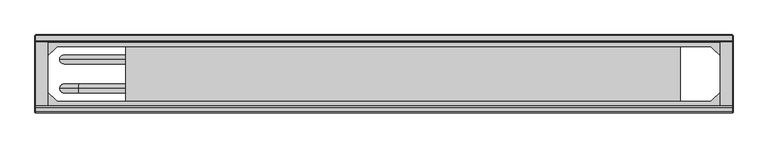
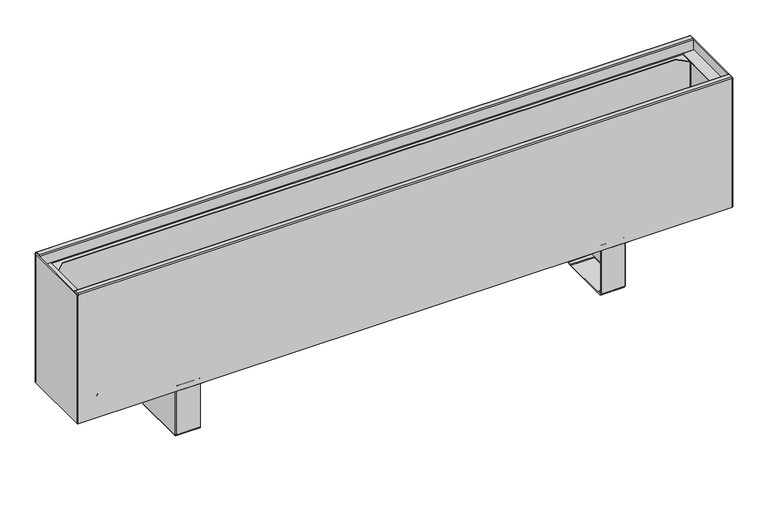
"""IFC4 building model written with IfcOpenShell, lengths in millimetres: proxy geometry, TECHNO_Конвектор напольный_Vita KPZ 135 : KPZ 135-250-1."""

from ifc_helpers import new_model, si_unit, point, frame, origin, place, context, project, spatial, polyline, circle_curve, ellipse_curve, trimmed, outline, extrude, source, transform, mapped, element, save
from ifc_brep_helpers import plane_surface, cylinder_surface, revolved_surface, advanced_brep


def mechanical_equipment_47e8f98e(model_context):
    return source(origin(), model_context, "Body", "SolidModel", [
        advanced_brep(
        [(409.7, -116.8, 1.5), (409.7, -114.5, 3.8), (409.7, -114.5, 4.9), (409.7, -116.0, 4.9), (409.7, -116.0, 3.8), (409.7, -116.8, 3.0), (409.7, -124.5, 3.0), (409.7, -124.5, 1.5), (409.7, -117.6, 1.5), (409.7, -114.5, 97.7), (409.7, -113.7, 98.5), (409.7, -101.0, 98.5), (409.7, -101.0, 100.0), (409.7, -113.7, 100.0), (409.7, -116.0, 97.7), (409.7, -116.0, 95.5), (409.7, -114.5, 95.5), (409.7, -220.5, 3.8), (409.7, -218.2, 1.5), (409.7, -217.4, 1.5), (409.7, -210.5, 1.5), (409.7, -210.5, 3.0), (409.7, -218.2, 3.0), (409.7, -219.0, 3.8), (409.7, -219.0, 4.9), (409.7, -220.5, 4.9), (409.7, -219.0, 97.7), (409.7, -221.3, 100.0), (409.7, -234.0, 100.0), (409.7, -234.0, 98.5), (409.7, -221.3, 98.5), (409.7, -220.5, 97.7), (409.7, -220.5, 95.5), (409.7, -219.0, 95.5), (367.0, -220.5, 97.7), (367.0, -221.3, 98.5), (367.0, -234.0, 98.5), (367.0, -234.0, 100.0), (367.0, -221.3, 100.0), (367.0, -219.0, 97.7), (367.0, -219.0, 3.8), (367.0, -218.2, 3.0), (367.0, -210.5, 3.0), (367.0, -210.5, 1.5), (367.0, -124.5, 1.5), (367.0, -124.5, 3.0), (367.0, -116.8, 3.0), (367.0, -116.0, 3.8), (367.0, -116.0, 97.7), (367.0, -113.7, 100.0), (367.0, -101.0, 100.0), (367.0, -101.0, 98.5), (367.0, -113.7, 98.5), (367.0, -114.5, 97.7), (367.0, -114.5, 3.8), (367.0, -116.8, 1.5), (367.0, -117.6, 1.5), (367.0, -117.6, 0.0), (367.0, -217.4, 0.0), (367.0, -217.4, 1.5), (367.0, -218.2, 1.5), (367.0, -220.5, 3.8), (410.5, -116.8, 95.5), (410.5, -218.2, 95.5), (412.0, -218.2, 95.5), (412.0, -116.8, 95.5), (412.0, -116.8, 4.9), (412.0, -117.6, 4.9), (410.5, -117.6, 4.9), (410.5, -116.8, 4.9), (410.5, -218.2, 4.9), (410.5, -217.4, 4.9), (412.0, -217.4, 4.9), (412.0, -218.2, 4.9), (410.5, -117.6, 2.3), (410.5, -217.4, 2.3), (412.0, -217.4, 2.3), (412.0, -117.6, 2.3), (409.7, -117.6, 0.0), (409.7, -217.4, 0.0)],
        [
            (0, 1, circle_curve(frame((409.7, -116.8, 3.8), z_axis=(1.0, 0.0, 0.0), x_axis=(0.0, -1.0, 0.0)), 2.3)),
            (1, 2),
            (2, 3),
            (3, 4),
            (4, 5, circle_curve(frame((409.7, -116.8, 3.8), z_axis=(-1.0, 0.0, 0.0), x_axis=(0.0, -1.0, 0.0)), 0.8)),
            (5, 6),
            (6, 7),
            (7, 8),
            (8, 0),
            (9, 10, circle_curve(frame((409.7, -113.7, 97.7), z_axis=(-1.0, 0.0, 0.0), x_axis=(0.0, -1.0, 0.0)), 0.8)),
            (10, 11),
            (11, 12),
            (12, 13),
            (13, 14, circle_curve(frame((409.7, -113.7, 97.7), z_axis=(1.0, 0.0, 0.0), x_axis=(0.0, -1.0, 0.0)), 2.3)),
            (14, 15),
            (15, 16),
            (16, 9),
            (17, 18, circle_curve(frame((409.7, -218.2, 3.8), z_axis=(1.0, 0.0, 0.0), x_axis=(0.0, -1.0, 0.0)), 2.3)),
            (18, 19),
            (19, 20),
            (20, 21),
            (21, 22),
            (22, 23, circle_curve(frame((409.7, -218.2, 3.8), z_axis=(-1.0, 0.0, 0.0), x_axis=(0.0, -1.0, 0.0)), 0.8)),
            (23, 24),
            (24, 25),
            (25, 17),
            (26, 27, circle_curve(frame((409.7, -221.3, 97.7), z_axis=(1.0, 0.0, 0.0), x_axis=(0.0, -1.0, 0.0)), 2.3)),
            (27, 28),
            (28, 29),
            (29, 30),
            (30, 31, circle_curve(frame((409.7, -221.3, 97.7), z_axis=(-1.0, 0.0, 0.0), x_axis=(0.0, -1.0, 0.0)), 0.8)),
            (31, 32),
            (32, 33),
            (33, 26),
            (34, 35, circle_curve(frame((367.0, -221.3, 97.7), z_axis=(1.0, 0.0, 0.0), x_axis=(0.0, -1.0, 0.0)), 0.8)),
            (35, 36),
            (36, 37),
            (37, 38),
            (38, 39, circle_curve(frame((367.0, -221.3, 97.7), z_axis=(-1.0, 0.0, 0.0), x_axis=(0.0, -1.0, 0.0)), 2.3)),
            (39, 40),
            (40, 41, circle_curve(frame((367.0, -218.2, 3.8), z_axis=(1.0, 0.0, 0.0), x_axis=(0.0, -1.0, 0.0)), 0.8)),
            (41, 42),
            (42, 43),
            (43, 44),
            (44, 45),
            (45, 46),
            (46, 47, circle_curve(frame((367.0, -116.8, 3.8), z_axis=(1.0, 0.0, 0.0), x_axis=(0.0, -1.0, 0.0)), 0.8)),
            (47, 48),
            (48, 49, circle_curve(frame((367.0, -113.7, 97.7), z_axis=(-1.0, 0.0, 0.0), x_axis=(0.0, -1.0, 0.0)), 2.3)),
            (49, 50),
            (50, 51),
            (51, 52),
            (52, 53, circle_curve(frame((367.0, -113.7, 97.7), z_axis=(1.0, 0.0, 0.0), x_axis=(0.0, -1.0, 0.0)), 0.8)),
            (53, 54),
            (54, 55, circle_curve(frame((367.0, -116.8, 3.8), z_axis=(-1.0, 0.0, 0.0), x_axis=(0.0, -1.0, 0.0)), 2.3)),
            (55, 56),
            (56, 57),
            (57, 58),
            (58, 59),
            (59, 60),
            (60, 61, circle_curve(frame((367.0, -218.2, 3.8), z_axis=(-1.0, 0.0, 0.0), x_axis=(0.0, -1.0, 0.0)), 2.3)),
            (61, 34),
            (30, 35),
            (34, 31),
            (29, 36),
            (28, 37),
            (27, 38),
            (26, 39),
            (33, 24),
            (23, 40),
            (22, 41),
            (5, 46),
            (45, 6),
            (4, 47),
            (3, 15),
            (14, 48),
            (13, 49),
            (12, 50),
            (11, 51),
            (10, 52),
            (9, 53),
            (16, 2),
            (1, 54),
            (0, 55),
            (8, 56),
            (17, 61),
            (60, 18),
            (25, 32),
            (21, 42),
            (20, 43),
            (59, 19),
            (44, 7),
            (15, 62, circle_curve(frame((409.7, -116.8, 95.5), z_axis=(0.0, 0.0, -1.0), x_axis=(-1.0, 0.0, 0.0)), 0.8)),
            (62, 63),
            (63, 33, circle_curve(frame((409.7, -218.2, 95.5), z_axis=(0.0, 0.0, -1.0), x_axis=(-1.0, 0.0, 0.0)), 0.8)),
            (32, 64, circle_curve(frame((409.7, -218.2, 95.5), z_axis=(0.0, 0.0, 1.0), x_axis=(-1.0, 0.0, 0.0)), 2.3)),
            (64, 65),
            (65, 16, circle_curve(frame((409.7, -116.8, 95.5), z_axis=(0.0, 0.0, 1.0), x_axis=(-1.0, 0.0, 0.0)), 2.3)),
            (2, 66, circle_curve(frame((409.7, -116.8, 4.9), z_axis=(0.0, 0.0, -1.0), x_axis=(-1.0, 0.0, 0.0)), 2.3)),
            (66, 67),
            (67, 68),
            (68, 69),
            (69, 3, circle_curve(frame((409.7, -116.8, 4.9), z_axis=(0.0, 0.0, 1.0), x_axis=(-1.0, 0.0, 0.0)), 0.8)),
            (24, 70, circle_curve(frame((409.7, -218.2, 4.9), z_axis=(0.0, 0.0, 1.0), x_axis=(-1.0, 0.0, 0.0)), 0.8)),
            (70, 71),
            (71, 72),
            (72, 73),
            (73, 25, circle_curve(frame((409.7, -218.2, 4.9), z_axis=(0.0, 0.0, -1.0), x_axis=(-1.0, 0.0, 0.0)), 2.3)),
            (69, 62),
            (68, 74),
            (74, 75),
            (75, 71),
            (70, 63),
            (64, 73),
            (72, 76),
            (76, 77),
            (77, 67),
            (66, 65),
            (8, 74, circle_curve(frame((409.7, -117.6, 2.3), z_axis=(0.0, -1.0, 0.0), x_axis=(-1.0, 0.0, 0.0)), 0.8)),
            (77, 78, circle_curve(frame((409.7, -117.6, 2.3), z_axis=(0.0, 1.0, 0.0), x_axis=(-1.0, 0.0, 0.0)), 2.3)),
            (78, 57),
            (58, 79),
            (79, 76, circle_curve(frame((409.7, -217.4, 2.3), z_axis=(0.0, -1.0, 0.0), x_axis=(-1.0, 0.0, 0.0)), 2.3)),
            (75, 19, circle_curve(frame((409.7, -217.4, 2.3), z_axis=(0.0, 1.0, 0.0), x_axis=(-1.0, 0.0, 0.0)), 0.8)),
            (20, 7),
            (79, 78),
        ],
        [
            plane_surface(frame((409.7, -222.1, 97.7), z_axis=(1.0, 0.0, 0.0), x_axis=(0.0, 0.0, 1.0))),
            plane_surface(frame((367.0, -222.1, 97.7), z_axis=(-1.0, 0.0, 0.0), x_axis=(0.0, 0.0, -1.0))),
            revolved_surface(polyline([(409.7, -222.10000000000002, 97.7), (367.0, -222.10000000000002, 97.7)]), (409.7, -221.3, 97.7), (1.0, 0.0, 0.0)),
            plane_surface(frame((367.0, -221.3, 98.5), z_axis=(0.0, 0.0, -1.0), x_axis=(1.0, 0.0, 0.0))),
            plane_surface(frame((367.0, -234.0, 98.5), z_axis=(0.0, -1.0, 0.0), x_axis=(1.0, 0.0, 0.0))),
            plane_surface(frame((367.0, -234.0, 100.0), z_axis=(0.0, 0.0, 1.0), x_axis=(1.0, 0.0, 0.0))),
            cylinder_surface(frame((409.7, -221.3, 97.7), z_axis=(-1.0, 0.0, 0.0), x_axis=(0.0, -1.0, 0.0)), 2.3),
            plane_surface(frame((367.0, -219.0, 97.7), z_axis=(0.0, 1.0, 0.0), x_axis=(1.0, 0.0, 0.0))),
            revolved_surface(polyline([(409.7, -219.0, 3.8), (367.0, -219.0, 3.8)]), (409.7, -218.2, 3.8), (1.0, 0.0, 0.0)),
            plane_surface(frame((367.0, -124.5, 3.0), z_axis=(0.0, 0.0, 1.0), x_axis=(1.0, 0.0, 0.0))),
            revolved_surface(polyline([(409.7, -117.6, 3.8), (367.0, -117.6, 3.8)]), (412.0, -116.8, 3.8), (1.0, 0.0, 0.0)),
            plane_surface(frame((367.0, -116.0, 3.8), z_axis=(0.0, -1.0, 0.0), x_axis=(1.0, 0.0, 0.0))),
            cylinder_surface(frame((412.0, -113.7, 97.7), z_axis=(-1.0, 0.0, 0.0), x_axis=(0.0, -1.0, 0.0)), 2.3),
            plane_surface(frame((367.0, -113.7, 100.0), z_axis=(0.0, 0.0, 1.0), x_axis=(1.0, 0.0, 0.0))),
            plane_surface(frame((367.0, -101.0, 100.0), z_axis=(0.0, 1.0, 0.0), x_axis=(1.0, 0.0, 0.0))),
            plane_surface(frame((367.0, -101.0, 98.5), z_axis=(0.0, 0.0, -1.0), x_axis=(1.0, 0.0, 0.0))),
            revolved_surface(polyline([(409.7, -114.5, 97.7), (367.0, -114.5, 97.7)]), (412.0, -113.7, 97.7), (1.0, 0.0, 0.0)),
            plane_surface(frame((367.0, -114.5, 97.7), z_axis=(0.0, 1.0, 0.0), x_axis=(1.0, 0.0, 0.0))),
            cylinder_surface(frame((412.0, -116.8, 3.8), z_axis=(-1.0, 0.0, 0.0), x_axis=(0.0, -1.0, 0.0)), 2.3),
            plane_surface(frame((367.0, -116.8, 1.5), z_axis=(0.0, 0.0, -1.0), x_axis=(1.0, 0.0, 0.0))),
            cylinder_surface(frame((409.7, -218.2, 3.8), z_axis=(-1.0, 0.0, 0.0), x_axis=(0.0, -1.0, 0.0)), 2.3),
            plane_surface(frame((367.0, -220.5, 3.8), z_axis=(0.0, -1.0, 0.0), x_axis=(1.0, 0.0, 0.0))),
            plane_surface(frame((367.0, -218.2, 3.0), z_axis=(0.0, 0.0, 1.0), x_axis=(1.0, 0.0, 0.0))),
            plane_surface(frame((367.0, -210.5, 3.0), z_axis=(0.0, 1.0, 0.0), x_axis=(1.0, 0.0, 0.0))),
            plane_surface(frame((367.0, -210.5, 1.5), z_axis=(0.0, 0.0, -1.0), x_axis=(1.0, 0.0, 0.0))),
            plane_surface(frame((367.0, -124.5, 1.5), z_axis=(0.0, -1.0, 0.0), x_axis=(1.0, 0.0, 0.0))),
            plane_surface(frame((409.7, -116.0, 95.5), z_axis=(0.0, 0.0, 1.0), x_axis=(0.0, -1.0, 0.0))),
            plane_surface(frame((409.7, -116.0, 4.9), z_axis=(0.0, 0.0, -1.0), x_axis=(0.0, 1.0, 0.0))),
            revolved_surface(polyline([(408.9, -116.8, 4.9), (408.9, -116.8, 95.5)]), (409.7, -116.8, 4.9), (0.0, 0.0, -1.0)),
            plane_surface(frame((410.5, -116.8, 95.5), z_axis=(-1.0, 0.0, 0.0), x_axis=(0.0, 0.0, -1.0))),
            plane_surface(frame((412.0, -117.6, 95.5), z_axis=(1.0, 0.0, 0.0), x_axis=(0.0, 0.0, -1.0))),
            cylinder_surface(frame((409.7, -116.8, 4.9), z_axis=(0.0, 0.0, 1.0), x_axis=(-1.0, 0.0, 0.0)), 2.3),
            cylinder_surface(frame((409.7, -218.2, 0.0), z_axis=(0.0, 0.0, 1.0), x_axis=(-1.0, 0.0, 0.0)), 2.3),
            revolved_surface(polyline([(408.9, -218.2, 4.9), (408.9, -218.2, 95.5)]), (409.7, -218.2, 0.0), (0.0, 0.0, -1.0)),
            plane_surface(frame((367.0, -117.6, 1.5), z_axis=(0.0, 1.0, 0.0), x_axis=(0.0, 0.0, 1.0))),
            plane_surface(frame((367.0, -217.4, 1.5), z_axis=(0.0, -1.0, 0.0), x_axis=(0.0, 0.0, -1.0))),
            plane_surface(frame((367.0, -117.6, 1.5), z_axis=(0.0, 0.0, 1.0), x_axis=(0.0, -1.0, 0.0))),
            revolved_surface(polyline([(408.9, -217.4, 2.3), (408.9, -117.6, 2.3)]), (409.7, -217.4, 2.3), (0.0, -1.0, 0.0)),
            cylinder_surface(frame((409.7, -217.4, 2.3), z_axis=(0.0, 1.0, 0.0), x_axis=(-1.0, 0.0, 0.0)), 2.3),
            plane_surface(frame((409.7, -117.6, 0.0), z_axis=(0.0, 0.0, -1.0), x_axis=(0.0, -1.0, 0.0))),
        ],
        [
            (0, [[1, 2, 3, 4, 5, 6, 7, 8, 9]]),
            (0, [[10, 11, 12, 13, 14, 15, 16, 17]]),
            (0, [[18, 19, 20, 21, 22, 23, 24, 25, 26]]),
            (0, [[27, 28, 29, 30, 31, 32, 33, 34]]),
            (1, [[35, 36, 37, 38, 39, 40, 41, 42, 43, 44, 45, 46, 47, 48, 49, 50, 51, 52, 53, 54, 55, 56, 57, 58, 59, 60, 61, 62]]),
            (2, [[-31, 63, -35, 64]]),
            (3, [[-30, 65, -36, -63]]),
            (4, [[-29, 66, -37, -65]]),
            (5, [[-28, 67, -38, -66]]),
            (6, [[-27, 68, -39, -67]]),
            (7, [[-40, -68, -34, 69, -24, 70]]),
            (8, [[-23, 71, -41, -70]]),
            (9, [[-6, 72, -46, 73]]),
            (10, [[-5, 74, -47, -72]]),
            (11, [[-48, -74, -4, 75, -15, 76]]),
            (12, [[-14, 77, -49, -76]]),
            (13, [[-13, 78, -50, -77]]),
            (14, [[-12, 79, -51, -78]]),
            (15, [[-11, 80, -52, -79]]),
            (16, [[-10, 81, -53, -80]]),
            (17, [[-54, -81, -17, 82, -2, 83]]),
            (18, [[-1, 84, -55, -83]]),
            (19, [[-84, -9, 85, -56]]),
            (20, [[-18, 86, -61, 87]]),
            (21, [[-62, -86, -26, 88, -32, -64]]),
            (22, [[-22, 89, -42, -71]]),
            (23, [[-21, 90, -43, -89]]),
            (24, [[-87, -60, 91, -19]]),
            (25, [[-7, -73, -45, 92]]),
            (26, [[93, 94, 95, -33, 96, 97, 98, -16]]),
            (27, [[99, 100, 101, 102, 103, -3]]),
            (27, [[104, 105, 106, 107, 108, -25]]),
            (28, [[-93, -75, -103, 109]]),
            (29, [[-94, -109, -102, 110, 111, 112, -105, 113]]),
            (30, [[-97, 114, -107, 115, 116, 117, -100, 118]]),
            (31, [[-98, -118, -99, -82]]),
            (32, [[-96, -88, -108, -114]]),
            (33, [[-95, -113, -104, -69]]),
            (34, [[-57, -85, 119, -110, -101, -117, 120, 121]]),
            (35, [[122, 123, -115, -106, -112, 124, -91, -59]]),
            (36, [[125, -92, -44, -90]]),
            (37, [[-119, -8, -125, -20, -124, -111]]),
            (38, [[-120, -116, -123, 126]]),
            (39, [[-121, -126, -122, -58]]),
        ],
    ),
        advanced_brep(
        [(-409.7, -218.2, 1.5), (-409.7, -220.5, 3.8), (-409.7, -220.5, 4.9), (-409.7, -219.0, 4.9), (-409.7, -219.0, 3.8), (-409.7, -218.2, 3.0), (-409.7, -210.5, 3.0), (-409.7, -210.5, 1.5), (-409.7, -217.4, 1.5), (-409.7, -220.5, 97.7), (-409.7, -221.3, 98.5), (-409.7, -234.0, 98.5), (-409.7, -234.0, 100.0), (-409.7, -221.3, 100.0), (-409.7, -219.0, 97.7), (-409.7, -219.0, 95.5), (-409.7, -220.5, 95.5), (-409.7, -114.5, 3.8), (-409.7, -116.8, 1.5), (-409.7, -117.6, 1.5), (-409.7, -124.5, 1.5), (-409.7, -124.5, 3.0), (-409.7, -116.8, 3.0), (-409.7, -116.0, 3.8), (-409.7, -116.0, 4.9), (-409.7, -114.5, 4.9), (-409.7, -116.0, 97.7), (-409.7, -113.7, 100.0), (-409.7, -101.0, 100.0), (-409.7, -101.0, 98.5), (-409.7, -113.7, 98.5), (-409.7, -114.5, 97.7), (-409.7, -114.5, 95.5), (-409.7, -116.0, 95.5), (-367.0, -114.5, 97.7), (-367.0, -113.7, 98.5), (-367.0, -101.0, 98.5), (-367.0, -101.0, 100.0), (-367.0, -113.7, 100.0), (-367.0, -116.0, 97.7), (-367.0, -116.0, 3.8), (-367.0, -116.8, 3.0), (-367.0, -124.5, 3.0), (-367.0, -124.5, 1.5), (-367.0, -210.5, 1.5), (-367.0, -210.5, 3.0), (-367.0, -218.2, 3.0), (-367.0, -219.0, 3.8), (-367.0, -219.0, 97.7), (-367.0, -221.3, 100.0), (-367.0, -234.0, 100.0), (-367.0, -234.0, 98.5), (-367.0, -221.3, 98.5), (-367.0, -220.5, 97.7), (-367.0, -220.5, 3.8), (-367.0, -218.2, 1.5), (-367.0, -217.4, 1.5), (-367.0, -217.4, 0.0), (-367.0, -117.6, 0.0), (-367.0, -117.6, 1.5), (-367.0, -116.8, 1.5), (-367.0, -114.5, 3.8), (-410.5, -218.2, 95.5), (-410.5, -116.8, 95.5), (-412.0, -116.8, 95.5), (-412.0, -218.2, 95.5), (-412.0, -218.2, 4.9), (-412.0, -217.4, 4.9), (-410.5, -217.4, 4.9), (-410.5, -218.2, 4.9), (-410.5, -116.8, 4.9), (-410.5, -117.6, 4.9), (-412.0, -117.6, 4.9), (-412.0, -116.8, 4.9), (-410.5, -217.4, 2.3), (-410.5, -117.6, 2.3), (-412.0, -117.6, 2.3), (-412.0, -217.4, 2.3), (-409.7, -217.4, 0.0), (-409.7, -117.6, 0.0)],
        [
            (0, 1, circle_curve(frame((-409.7, -218.2, 3.8), z_axis=(-1.0, 0.0, 0.0), x_axis=(0.0, 1.0, 0.0)), 2.3)),
            (1, 2),
            (2, 3),
            (3, 4),
            (4, 5, circle_curve(frame((-409.7, -218.2, 3.8), z_axis=(1.0, 0.0, 0.0), x_axis=(0.0, 1.0, 0.0)), 0.8)),
            (5, 6),
            (6, 7),
            (7, 8),
            (8, 0),
            (9, 10, circle_curve(frame((-409.7, -221.3, 97.7), z_axis=(1.0, 0.0, 0.0), x_axis=(0.0, 1.0, 0.0)), 0.8)),
            (10, 11),
            (11, 12),
            (12, 13),
            (13, 14, circle_curve(frame((-409.7, -221.3, 97.7), z_axis=(-1.0, 0.0, 0.0), x_axis=(0.0, 1.0, 0.0)), 2.3)),
            (14, 15),
            (15, 16),
            (16, 9),
            (17, 18, circle_curve(frame((-409.7, -116.8, 3.8), z_axis=(-1.0, 0.0, 0.0), x_axis=(0.0, 1.0, 0.0)), 2.3)),
            (18, 19),
            (19, 20),
            (20, 21),
            (21, 22),
            (22, 23, circle_curve(frame((-409.7, -116.8, 3.8), z_axis=(1.0, 0.0, 0.0), x_axis=(0.0, 1.0, 0.0)), 0.8)),
            (23, 24),
            (24, 25),
            (25, 17),
            (26, 27, circle_curve(frame((-409.7, -113.7, 97.7), z_axis=(-1.0, 0.0, 0.0), x_axis=(0.0, 1.0, 0.0)), 2.3)),
            (27, 28),
            (28, 29),
            (29, 30),
            (30, 31, circle_curve(frame((-409.7, -113.7, 97.7), z_axis=(1.0, 0.0, 0.0), x_axis=(0.0, 1.0, 0.0)), 0.8)),
            (31, 32),
            (32, 33),
            (33, 26),
            (34, 35, circle_curve(frame((-367.0, -113.7, 97.7), z_axis=(-1.0, 0.0, 0.0), x_axis=(0.0, 1.0, 0.0)), 0.8)),
            (35, 36),
            (36, 37),
            (37, 38),
            (38, 39, circle_curve(frame((-367.0, -113.7, 97.7), z_axis=(1.0, 0.0, 0.0), x_axis=(0.0, 1.0, 0.0)), 2.3)),
            (39, 40),
            (40, 41, circle_curve(frame((-367.0, -116.8, 3.8), z_axis=(-1.0, 0.0, 0.0), x_axis=(0.0, 1.0, 0.0)), 0.8)),
            (41, 42),
            (42, 43),
            (43, 44),
            (44, 45),
            (45, 46),
            (46, 47, circle_curve(frame((-367.0, -218.2, 3.8), z_axis=(-1.0, 0.0, 0.0), x_axis=(0.0, 1.0, 0.0)), 0.8)),
            (47, 48),
            (48, 49, circle_curve(frame((-367.0, -221.3, 97.7), z_axis=(1.0, 0.0, 0.0), x_axis=(0.0, 1.0, 0.0)), 2.3)),
            (49, 50),
            (50, 51),
            (51, 52),
            (52, 53, circle_curve(frame((-367.0, -221.3, 97.7), z_axis=(-1.0, 0.0, 0.0), x_axis=(0.0, 1.0, 0.0)), 0.8)),
            (53, 54),
            (54, 55, circle_curve(frame((-367.0, -218.2, 3.8), z_axis=(1.0, 0.0, 0.0), x_axis=(0.0, 1.0, 0.0)), 2.3)),
            (55, 56),
            (56, 57),
            (57, 58),
            (58, 59),
            (59, 60),
            (60, 61, circle_curve(frame((-367.0, -116.8, 3.8), z_axis=(1.0, 0.0, 0.0), x_axis=(0.0, 1.0, 0.0)), 2.3)),
            (61, 34),
            (30, 35),
            (34, 31),
            (29, 36),
            (28, 37),
            (27, 38),
            (26, 39),
            (33, 24),
            (23, 40),
            (22, 41),
            (5, 46),
            (45, 6),
            (4, 47),
            (3, 15),
            (14, 48),
            (13, 49),
            (12, 50),
            (11, 51),
            (10, 52),
            (9, 53),
            (16, 2),
            (1, 54),
            (0, 55),
            (8, 56),
            (17, 61),
            (60, 18),
            (25, 32),
            (21, 42),
            (20, 43),
            (59, 19),
            (44, 7),
            (15, 62, circle_curve(frame((-409.7, -218.2, 95.5), z_axis=(0.0, 0.0, -1.0), x_axis=(1.0, 0.0, 0.0)), 0.8)),
            (62, 63),
            (63, 33, circle_curve(frame((-409.7, -116.8, 95.5), z_axis=(0.0, 0.0, -1.0), x_axis=(1.0, 0.0, 0.0)), 0.8)),
            (32, 64, circle_curve(frame((-409.7, -116.8, 95.5), z_axis=(0.0, 0.0, 1.0), x_axis=(1.0, 0.0, 0.0)), 2.3)),
            (64, 65),
            (65, 16, circle_curve(frame((-409.7, -218.2, 95.5), z_axis=(0.0, 0.0, 1.0), x_axis=(1.0, 0.0, 0.0)), 2.3)),
            (2, 66, circle_curve(frame((-409.7, -218.2, 4.9), z_axis=(0.0, 0.0, -1.0), x_axis=(1.0, 0.0, 0.0)), 2.3)),
            (66, 67),
            (67, 68),
            (68, 69),
            (69, 3, circle_curve(frame((-409.7, -218.2, 4.9), z_axis=(0.0, 0.0, 1.0), x_axis=(1.0, 0.0, 0.0)), 0.8)),
            (24, 70, circle_curve(frame((-409.7, -116.8, 4.9), z_axis=(0.0, 0.0, 1.0), x_axis=(1.0, 0.0, 0.0)), 0.8)),
            (70, 71),
            (71, 72),
            (72, 73),
            (73, 25, circle_curve(frame((-409.7, -116.8, 4.9), z_axis=(0.0, 0.0, -1.0), x_axis=(1.0, 0.0, 0.0)), 2.3)),
            (69, 62),
            (68, 74),
            (74, 75),
            (75, 71),
            (70, 63),
            (64, 73),
            (72, 76),
            (76, 77),
            (77, 67),
            (66, 65),
            (8, 74, circle_curve(frame((-409.7, -217.4, 2.3), z_axis=(0.0, 1.0, 0.0), x_axis=(1.0, 0.0, 0.0)), 0.8)),
            (77, 78, circle_curve(frame((-409.7, -217.4, 2.3), z_axis=(0.0, -1.0, 0.0), x_axis=(1.0, 0.0, 0.0)), 2.3)),
            (78, 57),
            (58, 79),
            (79, 76, circle_curve(frame((-409.7, -117.6, 2.3), z_axis=(0.0, 1.0, 0.0), x_axis=(1.0, 0.0, 0.0)), 2.3)),
            (75, 19, circle_curve(frame((-409.7, -117.6, 2.3), z_axis=(0.0, -1.0, 0.0), x_axis=(1.0, 0.0, 0.0)), 0.8)),
            (20, 7),
            (79, 78),
        ],
        [
            plane_surface(frame((-409.7, -112.9, 97.7), z_axis=(-1.0, 0.0, 0.0), x_axis=(0.0, 0.0, 1.0))),
            plane_surface(frame((-367.0, -112.9, 97.7), z_axis=(1.0, 0.0, 0.0), x_axis=(0.0, 0.0, -1.0))),
            revolved_surface(polyline([(-409.7, -112.9, 97.7), (-367.0, -112.9, 97.7)]), (-409.7, -113.7, 97.7), (-1.0, 0.0, 0.0)),
            plane_surface(frame((-367.0, -113.7, 98.5), z_axis=(0.0, 0.0, -1.0), x_axis=(-1.0, 0.0, 0.0))),
            plane_surface(frame((-367.0, -101.0, 98.5), z_axis=(0.0, 1.0, 0.0), x_axis=(-1.0, 0.0, 0.0))),
            plane_surface(frame((-367.0, -101.0, 100.0), z_axis=(0.0, 0.0, 1.0), x_axis=(-1.0, 0.0, 0.0))),
            cylinder_surface(frame((-409.7, -113.7, 97.7), z_axis=(1.0, 0.0, 0.0), x_axis=(0.0, 1.0, 0.0)), 2.3),
            plane_surface(frame((-367.0, -116.0, 97.7), z_axis=(0.0, -1.0, 0.0), x_axis=(-1.0, 0.0, 0.0))),
            revolved_surface(polyline([(-409.7, -116.0, 3.8), (-367.0, -116.0, 3.8)]), (-409.7, -116.8, 3.8), (-1.0, 0.0, 0.0)),
            plane_surface(frame((-367.0, -210.5, 3.0), z_axis=(0.0, 0.0, 1.0), x_axis=(-1.0, 0.0, 0.0))),
            revolved_surface(polyline([(-409.7, -217.39999999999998, 3.8), (-367.0, -217.39999999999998, 3.8)]), (-412.0, -218.2, 3.8), (-1.0, 0.0, 0.0)),
            plane_surface(frame((-367.0, -219.0, 3.8), z_axis=(0.0, 1.0, 0.0), x_axis=(-1.0, 0.0, 0.0))),
            cylinder_surface(frame((-412.0, -221.3, 97.7), z_axis=(1.0, 0.0, 0.0), x_axis=(0.0, 1.0, 0.0)), 2.3),
            plane_surface(frame((-367.0, -221.3, 100.0), z_axis=(0.0, 0.0, 1.0), x_axis=(-1.0, 0.0, 0.0))),
            plane_surface(frame((-367.0, -234.0, 100.0), z_axis=(0.0, -1.0, 0.0), x_axis=(-1.0, 0.0, 0.0))),
            plane_surface(frame((-367.0, -234.0, 98.5), z_axis=(0.0, 0.0, -1.0), x_axis=(-1.0, 0.0, 0.0))),
            revolved_surface(polyline([(-409.7, -220.5, 97.7), (-367.0, -220.5, 97.7)]), (-412.0, -221.3, 97.7), (-1.0, 0.0, 0.0)),
            plane_surface(frame((-367.0, -220.5, 97.7), z_axis=(0.0, -1.0, 0.0), x_axis=(-1.0, 0.0, 0.0))),
            cylinder_surface(frame((-412.0, -218.2, 3.8), z_axis=(1.0, 0.0, 0.0), x_axis=(0.0, 1.0, 0.0)), 2.3),
            plane_surface(frame((-367.0, -218.2, 1.5), z_axis=(0.0, 0.0, -1.0), x_axis=(-1.0, 0.0, 0.0))),
            cylinder_surface(frame((-409.7, -116.8, 3.8), z_axis=(1.0, 0.0, 0.0), x_axis=(0.0, 1.0, 0.0)), 2.3),
            plane_surface(frame((-367.0, -114.5, 3.8), z_axis=(0.0, 1.0, 0.0), x_axis=(-1.0, 0.0, 0.0))),
            plane_surface(frame((-367.0, -116.8, 3.0), z_axis=(0.0, 0.0, 1.0), x_axis=(-1.0, 0.0, 0.0))),
            plane_surface(frame((-367.0, -124.5, 3.0), z_axis=(0.0, -1.0, 0.0), x_axis=(-1.0, 0.0, 0.0))),
            plane_surface(frame((-367.0, -124.5, 1.5), z_axis=(0.0, 0.0, -1.0), x_axis=(-1.0, 0.0, 0.0))),
            plane_surface(frame((-367.0, -210.5, 1.5), z_axis=(0.0, 1.0, 0.0), x_axis=(-1.0, 0.0, 0.0))),
            plane_surface(frame((-409.7, -219.0, 95.5), z_axis=(0.0, 0.0, 1.0), x_axis=(0.0, 1.0, 0.0))),
            plane_surface(frame((-409.7, -219.0, 4.9), z_axis=(0.0, 0.0, -1.0), x_axis=(0.0, -1.0, 0.0))),
            revolved_surface(polyline([(-408.9, -218.2, 4.9), (-408.9, -218.2, 95.5)]), (-409.7, -218.2, 4.9), (0.0, 0.0, -1.0)),
            plane_surface(frame((-410.5, -218.2, 95.5), z_axis=(1.0, 0.0, 0.0), x_axis=(0.0, 0.0, -1.0))),
            plane_surface(frame((-412.0, -217.4, 95.5), z_axis=(-1.0, 0.0, 0.0), x_axis=(0.0, 0.0, -1.0))),
            cylinder_surface(frame((-409.7, -218.2, 4.9), z_axis=(0.0, 0.0, 1.0), x_axis=(1.0, 0.0, 0.0)), 2.3),
            cylinder_surface(frame((-409.7, -116.8, 0.0), z_axis=(0.0, 0.0, 1.0), x_axis=(1.0, 0.0, 0.0)), 2.3),
            revolved_surface(polyline([(-408.9, -116.8, 4.9), (-408.9, -116.8, 95.5)]), (-409.7, -116.8, 0.0), (0.0, 0.0, -1.0)),
            plane_surface(frame((-367.0, -217.4, 1.5), z_axis=(0.0, -1.0, 0.0), x_axis=(0.0, 0.0, 1.0))),
            plane_surface(frame((-367.0, -117.6, 1.5), z_axis=(0.0, 1.0, 0.0), x_axis=(0.0, 0.0, -1.0))),
            plane_surface(frame((-367.0, -217.4, 1.5), z_axis=(0.0, 0.0, 1.0), x_axis=(0.0, 1.0, 0.0))),
            revolved_surface(polyline([(-408.9, -117.6, 2.3), (-408.9, -217.4, 2.3)]), (-409.7, -117.6, 2.3), (0.0, 1.0, 0.0)),
            cylinder_surface(frame((-409.7, -117.6, 2.3), z_axis=(0.0, -1.0, 0.0), x_axis=(1.0, 0.0, 0.0)), 2.3),
            plane_surface(frame((-409.7, -217.4, 0.0), z_axis=(0.0, 0.0, -1.0), x_axis=(0.0, 1.0, 0.0))),
        ],
        [
            (0, [[1, 2, 3, 4, 5, 6, 7, 8, 9]]),
            (0, [[10, 11, 12, 13, 14, 15, 16, 17]]),
            (0, [[18, 19, 20, 21, 22, 23, 24, 25, 26]]),
            (0, [[27, 28, 29, 30, 31, 32, 33, 34]]),
            (1, [[35, 36, 37, 38, 39, 40, 41, 42, 43, 44, 45, 46, 47, 48, 49, 50, 51, 52, 53, 54, 55, 56, 57, 58, 59, 60, 61, 62]]),
            (2, [[-31, 63, -35, 64]]),
            (3, [[-30, 65, -36, -63]]),
            (4, [[-29, 66, -37, -65]]),
            (5, [[-28, 67, -38, -66]]),
            (6, [[-27, 68, -39, -67]]),
            (7, [[-40, -68, -34, 69, -24, 70]]),
            (8, [[-23, 71, -41, -70]]),
            (9, [[-6, 72, -46, 73]]),
            (10, [[-5, 74, -47, -72]]),
            (11, [[-48, -74, -4, 75, -15, 76]]),
            (12, [[-14, 77, -49, -76]]),
            (13, [[-13, 78, -50, -77]]),
            (14, [[-12, 79, -51, -78]]),
            (15, [[-11, 80, -52, -79]]),
            (16, [[-10, 81, -53, -80]]),
            (17, [[-54, -81, -17, 82, -2, 83]]),
            (18, [[-1, 84, -55, -83]]),
            (19, [[-84, -9, 85, -56]]),
            (20, [[-18, 86, -61, 87]]),
            (21, [[-62, -86, -26, 88, -32, -64]]),
            (22, [[-22, 89, -42, -71]]),
            (23, [[-21, 90, -43, -89]]),
            (24, [[-87, -60, 91, -19]]),
            (25, [[-7, -73, -45, 92]]),
            (26, [[93, 94, 95, -33, 96, 97, 98, -16]]),
            (27, [[99, 100, 101, 102, 103, -3]]),
            (27, [[104, 105, 106, 107, 108, -25]]),
            (28, [[-93, -75, -103, 109]]),
            (29, [[-94, -109, -102, 110, 111, 112, -105, 113]]),
            (30, [[-97, 114, -107, 115, 116, 117, -100, 118]]),
            (31, [[-98, -118, -99, -82]]),
            (32, [[-96, -88, -108, -114]]),
            (33, [[-95, -113, -104, -69]]),
            (34, [[-57, -85, 119, -110, -101, -117, 120, 121]]),
            (35, [[122, 123, -115, -106, -112, 124, -91, -59]]),
            (36, [[125, -92, -44, -90]]),
            (37, [[-119, -8, -125, -20, -124, -111]]),
            (38, [[-120, -116, -123, 126]]),
            (39, [[-121, -126, -122, -58]]),
        ],
    ),
        advanced_brep(
        [(-444.0, -192.5, 136.5), (-444.0, -192.5, 121.5), (-525.0, -192.5, 136.5), (-525.0, -192.5, 121.5), (-542.5, -192.5, 104.0), (-557.5, -192.5, 104.0), (-557.5, -192.5, 100.0), (-542.5, -192.5, 100.0)],
        [
            (0, 1, circle_curve(frame((-444.0, -192.5, 129.0), z_axis=(1.0, 0.0, 0.0), x_axis=(0.0, 0.0, -1.0)), 7.5)),
            (1, 0, circle_curve(frame((-444.0, -192.5, 129.0), z_axis=(1.0, 0.0, 0.0), x_axis=(0.0, 0.0, -1.0)), 7.5)),
            (0, 2),
            (2, 3, circle_curve(frame((-525.0, -192.5, 129.0), z_axis=(1.0, 0.0, 0.0), x_axis=(0.0, 0.0, -1.0)), 7.5)),
            (3, 1),
            (3, 2, circle_curve(frame((-525.0, -192.5, 129.0), z_axis=(1.0, 0.0, 0.0), x_axis=(0.0, 0.0, -1.0)), 7.5)),
            (4, 3, circle_curve(frame((-525.0, -192.5, 104.0), z_axis=(0.0, 1.0, 0.0), x_axis=(0.0, 0.0, 1.0)), 17.5)),
            (2, 5, circle_curve(frame((-525.0, -192.5, 104.0), z_axis=(0.0, -1.0, 0.0), x_axis=(0.0, 0.0, 1.0)), 32.5)),
            (5, 4, circle_curve(frame((-550.0, -192.5, 104.0), z_axis=(0.0, 0.0, 1.0), x_axis=(1.0, 0.0, 0.0)), 7.5)),
            (4, 5, circle_curve(frame((-550.0, -192.5, 104.0), z_axis=(0.0, 0.0, 1.0), x_axis=(1.0, 0.0, 0.0)), 7.5)),
            (6, 7, circle_curve(frame((-550.0, -192.5, 100.0), z_axis=(0.0, 0.0, -1.0), x_axis=(1.0, 0.0, 0.0)), 7.5)),
            (7, 6, circle_curve(frame((-550.0, -192.5, 100.0), z_axis=(0.0, 0.0, -1.0), x_axis=(1.0, 0.0, 0.0)), 7.5)),
            (5, 6),
            (7, 4),
        ],
        [
            plane_surface(frame((-444.0, -192.5, 129.0), z_axis=(1.0, 0.0, 0.0), x_axis=(0.0, -1.0, 0.0))),
            cylinder_surface(frame((-444.0, -192.5, 129.0), z_axis=(1.0, 0.0, 0.0), x_axis=(0.0, 0.0, -1.0)), 7.5),
            revolved_surface(trimmed(ellipse_curve(frame((-525.0, -192.5, 129.0), z_axis=(1.0, 0.0, 0.0), x_axis=(0.0, 0.0, -1.0)), 7.5, 7.5), [point((-525.0, -192.5, 136.5))], [point((-525.0, -192.5, 121.5))], True, "CARTESIAN"), (-525.0, -192.5, 104.0), (0.0, -1.0, 0.0)),
            revolved_surface(trimmed(ellipse_curve(frame((-525.0, -192.5, 129.0), z_axis=(1.0, 0.0, 0.0), x_axis=(0.0, 0.0, -1.0)), 7.5, 7.5), [point((-525.0, -192.5, 121.5))], [point((-525.0, -192.5, 136.5))], True, "CARTESIAN"), (-525.0, -192.5, 104.0), (0.0, -1.0, 0.0)),
            plane_surface(frame((-550.0, -192.5, 100.0), z_axis=(0.0, 0.0, -1.0), x_axis=(0.0, -1.0, 0.0))),
            cylinder_surface(frame((-550.0, -192.5, 104.0), z_axis=(0.0, 0.0, 1.0), x_axis=(1.0, 0.0, 0.0)), 7.5),
        ],
        [
            (0, [[1, 2]]),
            (1, [[-1, 3, 4, 5]]),
            (1, [[-2, -5, 6, -3]]),
            (2, [[7, -4, 8, 9]]),
            (3, [[-8, -6, -7, 10]]),
            (4, [[11, 12]]),
            (5, [[-9, 13, -12, 14]]),
            (5, [[-10, -14, -11, -13]]),
        ],
    ),
        advanced_brep(
        [(-444.0, -142.5, 136.5), (-444.0, -142.5, 121.5), (-557.5, -142.5, 136.5), (-542.5, -142.5, 121.5), (-557.5, -142.5, 100.0), (-542.5, -142.5, 100.0)],
        [
            (0, 1, circle_curve(frame((-444.0, -142.5, 129.0), z_axis=(1.0, 0.0, 0.0), x_axis=(0.0, 0.0, -1.0)), 7.5)),
            (1, 0, circle_curve(frame((-444.0, -142.5, 129.0), z_axis=(1.0, 0.0, 0.0), x_axis=(0.0, 0.0, -1.0)), 7.5)),
            (0, 2),
            (2, 3, ellipse_curve(frame((-550.0, -142.5, 129.0), z_axis=(0.7071067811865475, 0.0, 0.7071067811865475), x_axis=(0.7071067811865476, 0.0, -0.7071067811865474)), 10.6066017, 7.5)),
            (3, 1),
            (3, 2, ellipse_curve(frame((-550.0, -142.5, 129.0), z_axis=(0.7071067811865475, 0.0, 0.7071067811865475), x_axis=(0.7071067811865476, 0.0, -0.7071067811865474)), 10.6066017, 7.5)),
            (4, 5, circle_curve(frame((-550.0, -142.5, 100.0), z_axis=(0.0, 0.0, -1.0), x_axis=(1.0, 0.0, 0.0)), 7.5)),
            (5, 4, circle_curve(frame((-550.0, -142.5, 100.0), z_axis=(0.0, 0.0, -1.0), x_axis=(1.0, 0.0, 0.0)), 7.5)),
            (2, 4),
            (5, 3),
        ],
        [
            plane_surface(frame((-444.0, -142.5, 129.0), z_axis=(1.0, 0.0, 0.0), x_axis=(0.0, -1.0, 0.0))),
            cylinder_surface(frame((-444.0, -142.5, 129.0), z_axis=(1.0, 0.0, 0.0), x_axis=(0.0, 0.0, -1.0)), 7.5),
            plane_surface(frame((-550.0, -142.5, 100.0), z_axis=(0.0, 0.0, -1.0), x_axis=(0.0, -1.0, 0.0))),
            cylinder_surface(frame((-550.0, -142.5, 129.0), z_axis=(0.0, 0.0, 1.0), x_axis=(1.0, 0.0, 0.0)), 7.5),
        ],
        [
            (0, [[1, 2]]),
            (1, [[-1, 3, 4, 5]]),
            (1, [[-2, -5, 6, -3]]),
            (2, [[7, 8]]),
            (3, [[-4, 9, -8, 10]]),
            (3, [[-6, -10, -7, -9]]),
        ],
    ),
        extrude(outline(polyline([(509.0, -117.5), (509.0, -217.5), (-444.0, -217.5), (-444.0, -117.5), (509.0, -117.5)])), frame((0.0, 0.0, 103.87), z_axis=(0.0, 0.0, 1.0), x_axis=(1.0, 0.0, 0.0)), (0.0, 0.0, 1.0), 50.0),
        extrude(outline(polyline([(-585.5004, -102.0), (-585.5004, -233.0), (-599.0, -233.0), (-599.0, -102.0), (-585.5004, -102.0)])), frame((0.0, 0.0, 101.83), z_axis=(0.0, 0.0, 1.0), x_axis=(1.0, 0.0, 0.0)), (0.0, 0.0, 1.0), 1.0002),
        extrude(outline(polyline([(585.5004, -102.0), (599.0, -102.0), (599.0, -233.0), (585.5004, -233.0), (585.5004, -102.0)])), frame((0.0, 0.0, 101.83), z_axis=(0.0, 0.0, 1.0), x_axis=(1.0, 0.0, 0.0)), (0.0, 0.0, 1.0), 1.0002),
        extrude(outline(polyline([(-599.0, -222.2), (-599.0, -112.8), (-578.0, -112.8), (-578.0, -222.2), (-599.0, -222.2)])), frame((0.0, 0.0, 328.83), z_axis=(0.0, 0.0, 1.0), x_axis=(1.0, 0.0, 0.0)), (0.0, 0.0, 1.0), 1.0002),
        extrude(outline(polyline([(599.0, -222.2), (578.0, -222.2), (578.0, -112.8), (599.0, -112.8), (599.0, -222.2)])), frame((0.0, 0.0, 328.83), z_axis=(0.0, 0.0, 1.0), x_axis=(1.0, 0.0, 0.0)), (0.0, 0.0, 1.0), 1.0002),
        advanced_brep(
        [(-598.2, -101.8, 350.83), (-598.2, -100.0, 349.03), (-598.2, -101.0, 349.03), (-598.2, -101.0, 327.83), (-598.2, -138.5, 327.83), (-598.2, -138.5, 328.83), (-598.2, -112.8, 328.83), (-598.2, -112.0, 329.63), (-598.2, -112.0, 349.03), (-598.2, -110.2, 350.83), (-598.2, -233.2, 350.83), (-598.2, -224.8, 350.83), (-598.2, -223.0, 349.03), (-598.2, -223.0, 329.63), (-598.2, -222.2, 328.83), (-598.2, -196.5, 328.83), (-598.2, -196.5, 327.83), (-598.2, -234.0, 327.83), (-598.2, -234.0, 349.03), (-598.2, -235.0, 349.03), (598.2, -101.8, 350.83), (598.2, -110.2, 350.83), (598.2, -112.0, 349.03), (598.2, -112.0, 329.63), (598.2, -112.8, 328.83), (598.2, -138.5, 328.83), (598.2, -138.5, 327.83), (598.2, -101.0, 327.83), (598.2, -101.0, 349.03), (598.2, -100.0, 349.03), (598.2, -233.2, 350.83), (598.2, -235.0, 349.03), (598.2, -234.0, 349.03), (598.2, -234.0, 327.83), (598.2, -196.5, 327.83), (598.2, -196.5, 328.83), (598.2, -222.2, 328.83), (598.2, -223.0, 329.63), (598.2, -223.0, 349.03), (598.2, -224.8, 350.83), (-580.3, -138.5, 328.83), (-561.8, -120.0, 328.83), (561.8, -120.0, 328.83), (580.3, -138.5, 328.83), (-580.3, -138.5, 327.83), (580.3, -138.5, 327.83), (561.8, -120.0, 327.83), (-561.8, -120.0, 327.83), (598.2, -100.0, 100.0), (-598.2, -100.0, 100.0), (-598.2, -235.0, 100.0), (598.2, -235.0, 100.0), (580.3, -196.5, 327.83), (-580.3, -196.5, 327.83), (-561.8, -215.0, 327.83), (561.8, -215.0, 327.83), (-580.3, -196.5, 328.83), (580.3, -196.5, 328.83), (561.8, -215.0, 328.83), (-561.8, -215.0, 328.83), (-600.0, -101.8, 349.03), (-600.0, -233.2, 349.03), (-599.0, -233.2, 349.03), (-599.0, -101.8, 349.03), (600.0, -233.2, 349.03), (600.0, -101.8, 349.03), (599.0, -101.8, 349.03), (599.0, -233.2, 349.03), (600.0, -101.8, 100.0), (600.0, -233.2, 100.0), (-600.0, -233.2, 100.0), (-600.0, -101.8, 100.0), (599.0, -101.8, 100.0), (598.2, -101.0, 100.0), (598.2, -113.0, 100.0), (-598.2, -113.0, 100.0), (-598.2, -101.0, 100.0), (-599.0, -101.8, 100.0), (-599.0, -233.2, 100.0), (-598.2, -234.0, 100.0), (-598.2, -222.0, 100.0), (598.2, -222.0, 100.0), (598.2, -234.0, 100.0), (599.0, -233.2, 100.0), (-598.2, -101.0, 100.83), (598.2, -101.0, 100.83), (598.2, -234.0, 100.83), (-598.2, -234.0, 100.83), (-598.2, -113.0, 100.83), (598.2, -113.0, 100.83), (598.2, -222.0, 100.83), (-598.2, -222.0, 100.83)],
        [
            (0, 1, circle_curve(frame((-598.2, -101.8, 349.03), z_axis=(-1.0, 0.0, 0.0), x_axis=(0.0, 1.0, 0.0)), 1.8)),
            (1, 2),
            (2, 3),
            (3, 4),
            (4, 5),
            (5, 6),
            (6, 7, circle_curve(frame((-598.2, -112.8, 329.63), z_axis=(1.0, 0.0, 0.0), x_axis=(0.0, 1.0, 0.0)), 0.8)),
            (7, 8),
            (8, 9, circle_curve(frame((-598.2, -110.2, 349.03), z_axis=(-1.0, 0.0, 0.0), x_axis=(0.0, 1.0, 0.0)), 1.8)),
            (9, 0),
            (10, 11),
            (11, 12, circle_curve(frame((-598.2, -224.8, 349.03), z_axis=(-1.0, 0.0, 0.0), x_axis=(0.0, 1.0, 0.0)), 1.8)),
            (12, 13),
            (13, 14, circle_curve(frame((-598.2, -222.2, 329.63), z_axis=(1.0, 0.0, 0.0), x_axis=(0.0, 1.0, 0.0)), 0.8)),
            (14, 15),
            (15, 16),
            (16, 17),
            (17, 18),
            (18, 19),
            (19, 10, circle_curve(frame((-598.2, -233.2, 349.03), z_axis=(-1.0, 0.0, 0.0), x_axis=(0.0, 1.0, 0.0)), 1.8)),
            (20, 21),
            (21, 22, circle_curve(frame((598.2, -110.2, 349.03), z_axis=(1.0, 0.0, 0.0), x_axis=(0.0, 1.0, 0.0)), 1.8)),
            (22, 23),
            (23, 24, circle_curve(frame((598.2, -112.8, 329.63), z_axis=(-1.0, 0.0, 0.0), x_axis=(0.0, 1.0, 0.0)), 0.8)),
            (24, 25),
            (25, 26),
            (26, 27),
            (27, 28),
            (28, 29),
            (29, 20, circle_curve(frame((598.2, -101.8, 349.03), z_axis=(1.0, 0.0, 0.0), x_axis=(0.0, 1.0, 0.0)), 1.8)),
            (30, 31, circle_curve(frame((598.2, -233.2, 349.03), z_axis=(1.0, 0.0, 0.0), x_axis=(0.0, 1.0, 0.0)), 1.8)),
            (31, 32),
            (32, 33),
            (33, 34),
            (34, 35),
            (35, 36),
            (36, 37, circle_curve(frame((598.2, -222.2, 329.63), z_axis=(-1.0, 0.0, 0.0), x_axis=(0.0, 1.0, 0.0)), 0.8)),
            (37, 38),
            (38, 39, circle_curve(frame((598.2, -224.8, 349.03), z_axis=(1.0, 0.0, 0.0), x_axis=(0.0, 1.0, 0.0)), 1.8)),
            (39, 30),
            (9, 21),
            (20, 0),
            (8, 22),
            (7, 23),
            (6, 24),
            (5, 40),
            (40, 41),
            (41, 42),
            (42, 43),
            (43, 25),
            (4, 44),
            (44, 40),
            (43, 45),
            (45, 26),
            (45, 46),
            (46, 47),
            (47, 44),
            (3, 27),
            (1, 29),
            (29, 48),
            (48, 49),
            (49, 1),
            (19, 31),
            (30, 10),
            (19, 50),
            (50, 51),
            (51, 31),
            (52, 34),
            (33, 17),
            (16, 53),
            (53, 54),
            (54, 55),
            (55, 52),
            (15, 56),
            (56, 53),
            (52, 57),
            (57, 35),
            (14, 36),
            (57, 58),
            (58, 59),
            (59, 56),
            (13, 37),
            (12, 38),
            (11, 39),
            (42, 46),
            (41, 47),
            (58, 55),
            (54, 59),
            (1, 60, circle_curve(frame((-598.2, -101.8, 349.03), z_axis=(0.0, 0.0, 1.0), x_axis=(1.0, 0.0, 0.0)), 1.8)),
            (60, 61),
            (61, 19, circle_curve(frame((-598.2, -233.2, 349.03), z_axis=(0.0, 0.0, 1.0), x_axis=(1.0, 0.0, 0.0)), 1.8)),
            (18, 62, circle_curve(frame((-598.2, -233.2, 349.03), z_axis=(0.0, 0.0, -1.0), x_axis=(1.0, 0.0, 0.0)), 0.8)),
            (62, 63),
            (63, 2, circle_curve(frame((-598.2, -101.8, 349.03), z_axis=(0.0, 0.0, -1.0), x_axis=(1.0, 0.0, 0.0)), 0.8)),
            (31, 64, circle_curve(frame((598.2, -233.2, 349.03), z_axis=(0.0, 0.0, 1.0), x_axis=(1.0, 0.0, 0.0)), 1.8)),
            (64, 65),
            (65, 29, circle_curve(frame((598.2, -101.8, 349.03), z_axis=(0.0, 0.0, 1.0), x_axis=(1.0, 0.0, 0.0)), 1.8)),
            (28, 66, circle_curve(frame((598.2, -101.8, 349.03), z_axis=(0.0, 0.0, -1.0), x_axis=(1.0, 0.0, 0.0)), 0.8)),
            (66, 67),
            (67, 32, circle_curve(frame((598.2, -233.2, 349.03), z_axis=(0.0, 0.0, -1.0), x_axis=(1.0, 0.0, 0.0)), 0.8)),
            (48, 68, circle_curve(frame((598.2, -101.8, 100.0), z_axis=(0.0, 0.0, -1.0), x_axis=(1.0, 0.0, 0.0)), 1.8)),
            (68, 69),
            (69, 51, circle_curve(frame((598.2, -233.2, 100.0), z_axis=(0.0, 0.0, -1.0), x_axis=(1.0, 0.0, 0.0)), 1.8)),
            (50, 70, circle_curve(frame((-598.2, -233.2, 100.0), z_axis=(0.0, 0.0, -1.0), x_axis=(1.0, 0.0, 0.0)), 1.8)),
            (70, 71),
            (71, 49, circle_curve(frame((-598.2, -101.8, 100.0), z_axis=(0.0, 0.0, -1.0), x_axis=(1.0, 0.0, 0.0)), 1.8)),
            (72, 73, circle_curve(frame((598.2, -101.8, 100.0), z_axis=(0.0, 0.0, 1.0), x_axis=(1.0, 0.0, 0.0)), 0.8)),
            (73, 74),
            (74, 75),
            (75, 76),
            (76, 77, circle_curve(frame((-598.2, -101.8, 100.0), z_axis=(0.0, 0.0, 1.0), x_axis=(1.0, 0.0, 0.0)), 0.8)),
            (77, 78),
            (78, 79, circle_curve(frame((-598.2, -233.2, 100.0), z_axis=(0.0, 0.0, 1.0), x_axis=(1.0, 0.0, 0.0)), 0.8)),
            (79, 80),
            (80, 81),
            (81, 82),
            (82, 83, circle_curve(frame((598.2, -233.2, 100.0), z_axis=(0.0, 0.0, 1.0), x_axis=(1.0, 0.0, 0.0)), 0.8)),
            (83, 72),
            (71, 60),
            (63, 77),
            (76, 84),
            (84, 3),
            (84, 85),
            (85, 27),
            (85, 73),
            (72, 66),
            (83, 67),
            (64, 69),
            (68, 65),
            (82, 86),
            (86, 33),
            (86, 87),
            (87, 17),
            (87, 79),
            (78, 62),
            (70, 61),
            (88, 89),
            (89, 85),
            (84, 88),
            (90, 91),
            (91, 87),
            (86, 90),
            (74, 89),
            (88, 75),
            (80, 91),
            (90, 81),
        ],
        [
            plane_surface(frame((-598.2, -110.2, 350.83), z_axis=(-1.0, 0.0, 0.0), x_axis=(0.0, 1.0, 0.0))),
            plane_surface(frame((598.2, -110.2, 350.83), z_axis=(1.0, 0.0, 0.0), x_axis=(0.0, -1.0, 0.0))),
            plane_surface(frame((598.2, -101.8, 350.83), z_axis=(0.0, 0.0, 1.0), x_axis=(-1.0, 0.0, 0.0))),
            cylinder_surface(frame((-598.2, -110.2, 349.03), z_axis=(1.0, 0.0, 0.0), x_axis=(0.0, 1.0, 0.0)), 1.8),
            plane_surface(frame((598.2, -112.0, 349.03), z_axis=(0.0, -1.0, 0.0), x_axis=(-1.0, 0.0, 0.0))),
            revolved_surface(polyline([(-598.2, -112.0, 329.63), (598.2, -112.0, 329.63)]), (-598.2, -112.8, 329.63), (-1.0, 0.0, 0.0)),
            plane_surface(frame((598.2, -112.8, 328.83), z_axis=(0.0, 0.0, 1.0), x_axis=(-1.0, 0.0, 0.0))),
            plane_surface(frame((598.2, -138.5, 328.83), z_axis=(0.0, -1.0, 0.0), x_axis=(-1.0, 0.0, 0.0))),
            plane_surface(frame((598.2, -138.5, 327.83), z_axis=(0.0, 0.0, -1.0), x_axis=(-1.0, 0.0, 0.0))),
            plane_surface(frame((598.2, -100.0, 327.83), z_axis=(0.0, 1.0, 0.0), x_axis=(-1.0, 0.0, 0.0))),
            cylinder_surface(frame((-598.2, -101.8, 349.03), z_axis=(1.0, 0.0, 0.0), x_axis=(0.0, 1.0, 0.0)), 1.8),
            cylinder_surface(frame((0.0, -233.2, 349.03), z_axis=(1.0, 0.0, 0.0), x_axis=(0.0, 1.0, 0.0)), 1.8),
            plane_surface(frame((598.2, -235.0, 349.03), z_axis=(0.0, -1.0, 0.0), x_axis=(-1.0, 0.0, 0.0))),
            plane_surface(frame((598.2, -235.0, 327.83), z_axis=(0.0, 0.0, -1.0), x_axis=(-1.0, 0.0, 0.0))),
            plane_surface(frame((598.2, -196.5, 327.83), z_axis=(0.0, 1.0, 0.0), x_axis=(-1.0, 0.0, 0.0))),
            plane_surface(frame((598.2, -196.5, 328.83), z_axis=(0.0, 0.0, 1.0), x_axis=(-1.0, 0.0, 0.0))),
            revolved_surface(polyline([(-598.2, -221.39999999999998, 329.63), (598.2, -221.39999999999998, 329.63)]), (0.0, -222.2, 329.63), (-1.0, 0.0, 0.0)),
            plane_surface(frame((598.2, -223.0, 329.63), z_axis=(0.0, 1.0, 0.0), x_axis=(-1.0, 0.0, 0.0))),
            cylinder_surface(frame((0.0, -224.8, 349.03), z_axis=(1.0, 0.0, 0.0), x_axis=(0.0, 1.0, 0.0)), 1.8),
            plane_surface(frame((598.2, -224.8, 350.83), z_axis=(0.0, 0.0, 1.0), x_axis=(-1.0, 0.0, 0.0))),
            plane_surface(frame((580.3, -138.5, 328.83), z_axis=(-0.7071067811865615, -0.7071067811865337, 0.0), x_axis=(0.0, 0.0, -1.0))),
            plane_surface(frame((561.8, -120.0, 328.83), z_axis=(0.0, -1.0, 0.0), x_axis=(0.0, 0.0, -1.0))),
            plane_surface(frame((-561.8, -120.0, 328.83), z_axis=(0.707106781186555, -0.7071067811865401, 0.0), x_axis=(0.0, 0.0, -1.0))),
            plane_surface(frame((-561.8, -215.0, 328.83), z_axis=(0.0, 1.0, 0.0), x_axis=(0.0, 0.0, -1.0))),
            plane_surface(frame((561.8, -215.0, 328.83), z_axis=(-0.7071067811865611, 0.7071067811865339, 0.0), x_axis=(0.0, 0.0, -1.0))),
            plane_surface(frame((-580.3, -196.5, 328.83), z_axis=(0.7071067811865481, 0.7071067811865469, 0.0), x_axis=(0.0, 0.0, -1.0))),
            plane_surface(frame((-598.2, -100.0, 349.03), z_axis=(0.0, 0.0, 1.0), x_axis=(-1.0, 0.0, 0.0))),
            plane_surface(frame((-598.2, -100.0, 100.0), z_axis=(0.0, 0.0, -1.0), x_axis=(1.0, 0.0, 0.0))),
            cylinder_surface(frame((-598.2, -101.8, 100.0), z_axis=(0.0, 0.0, 1.0), x_axis=(1.0, 0.0, 0.0)), 1.8),
            revolved_surface(polyline([(-597.4000000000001, -101.8, 100.0), (-597.4000000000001, -101.8, 349.03)]), (-598.2, -101.8, 0.0), (0.0, 0.0, -1.0)),
            plane_surface(frame((-598.2, -101.0, 349.03), z_axis=(0.0, -1.0, 0.0), x_axis=(0.0, 0.0, -1.0))),
            revolved_surface(polyline([(599.0, -101.8, 100.0), (599.0, -101.8, 349.03)]), (598.2, -101.8, 0.0), (0.0, 0.0, -1.0)),
            plane_surface(frame((599.0, -101.8, 349.03), z_axis=(-1.0, 0.0, 0.0), x_axis=(0.0, 0.0, -1.0))),
            plane_surface(frame((600.0, -233.2, 349.03), z_axis=(1.0, 0.0, 0.0), x_axis=(0.0, 0.0, -1.0))),
            cylinder_surface(frame((598.2, -101.8, 100.0), z_axis=(0.0, 0.0, 1.0), x_axis=(1.0, 0.0, 0.0)), 1.8),
            cylinder_surface(frame((598.2, -233.2, 100.0), z_axis=(0.0, 0.0, 1.0), x_axis=(1.0, 0.0, 0.0)), 1.8),
            revolved_surface(polyline([(599.0, -233.2, 100.0), (599.0, -233.2, 349.03)]), (598.2, -233.2, 0.0), (0.0, 0.0, -1.0)),
            plane_surface(frame((598.2, -234.0, 349.03), z_axis=(0.0, 1.0, 0.0), x_axis=(0.0, 0.0, -1.0))),
            revolved_surface(polyline([(-597.4000000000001, -233.2, 100.0), (-597.4000000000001, -233.2, 349.03)]), (-598.2, -233.2, 0.0), (0.0, 0.0, -1.0)),
            plane_surface(frame((-600.0, -101.8, 349.03), z_axis=(-1.0, 0.0, 0.0), x_axis=(0.0, 0.0, -1.0))),
            cylinder_surface(frame((-598.2, -233.2, 100.0), z_axis=(0.0, 0.0, 1.0), x_axis=(1.0, 0.0, 0.0)), 1.8),
            plane_surface(frame((-599.0, -233.2, 349.03), z_axis=(1.0, 0.0, 0.0), x_axis=(0.0, 0.0, -1.0))),
            plane_surface(frame((598.2, -113.0, 100.83), z_axis=(0.0, 0.0, 1.0), x_axis=(1.0, 0.0, 0.0))),
            plane_surface(frame((-598.2, -113.0, 100.83), z_axis=(0.0, -1.0, 0.0), x_axis=(0.0, 0.0, -1.0))),
            plane_surface(frame((598.2, -113.0, 100.83), z_axis=(1.0, 0.0, 0.0), x_axis=(0.0, 0.0, -1.0))),
            plane_surface(frame((-598.2, -101.0, 100.83), z_axis=(-1.0, 0.0, 0.0), x_axis=(0.0, 0.0, -1.0))),
            plane_surface(frame((598.2, -222.0, 100.83), z_axis=(0.0, 1.0, 0.0), x_axis=(0.0, 0.0, -1.0))),
            plane_surface(frame((-598.2, -222.0, 100.83), z_axis=(-1.0, 0.0, 0.0), x_axis=(0.0, 0.0, -1.0))),
            plane_surface(frame((598.2, -234.0, 100.83), z_axis=(1.0, 0.0, 0.0), x_axis=(0.0, 0.0, -1.0))),
        ],
        [
            (0, [[1, 2, 3, 4, 5, 6, 7, 8, 9, 10]]),
            (0, [[11, 12, 13, 14, 15, 16, 17, 18, 19, 20]]),
            (1, [[21, 22, 23, 24, 25, 26, 27, 28, 29, 30]]),
            (1, [[31, 32, 33, 34, 35, 36, 37, 38, 39, 40]]),
            (2, [[-10, 41, -21, 42]]),
            (3, [[-9, 43, -22, -41]]),
            (4, [[-8, 44, -23, -43]]),
            (5, [[-7, 45, -24, -44]]),
            (6, [[-6, 46, 47, 48, 49, 50, -25, -45]]),
            (7, [[-5, 51, 52, -46]]),
            (7, [[-26, -50, 53, 54]]),
            (8, [[-54, 55, 56, 57, -51, -4, 58, -27]]),
            (9, [[59, 60, 61, 62]]),
            (10, [[-1, -42, -30, -59]]),
            (11, [[-20, 63, -31, 64]]),
            (12, [[-63, 65, 66, 67]]),
            (13, [[68, -34, 69, -17, 70, 71, 72, 73]]),
            (14, [[-16, 74, 75, -70]]),
            (14, [[-35, -68, 76, 77]]),
            (15, [[-15, 78, -36, -77, 79, 80, 81, -74]]),
            (16, [[-14, 82, -37, -78]]),
            (17, [[-13, 83, -38, -82]]),
            (18, [[-12, 84, -39, -83]]),
            (19, [[-11, -64, -40, -84]]),
            (20, [[85, -55, -53, -49]]),
            (21, [[-85, -48, 86, -56]]),
            (22, [[-86, -47, -52, -57]]),
            (23, [[87, -72, 88, -80]]),
            (24, [[-87, -79, -76, -73]]),
            (25, [[-88, -71, -75, -81]]),
            (26, [[89, 90, 91, -19, 92, 93, 94, -2]]),
            (26, [[95, 96, 97, -29, 98, 99, 100, -32]]),
            (27, [[101, 102, 103, -66, 104, 105, 106, -61], [107, 108, 109, 110, 111, 112, 113, 114, 115, 116, 117, 118]]),
            (28, [[-89, -62, -106, 119]]),
            (29, [[-94, 120, -111, 121, 122, -3]]),
            (30, [[-58, -122, 123, 124]]),
            (31, [[-98, -28, -124, 125, -107, 126]]),
            (32, [[-99, -126, -118, 127]]),
            (33, [[-96, 128, -102, 129]]),
            (34, [[-97, -129, -101, -60]]),
            (35, [[-95, -67, -103, -128]]),
            (36, [[-100, -127, -117, 130, 131, -33]]),
            (37, [[-69, -131, 132, 133]]),
            (38, [[-92, -18, -133, 134, -113, 135]]),
            (39, [[-90, -119, -105, 136]]),
            (40, [[-91, -136, -104, -65]]),
            (41, [[-93, -135, -112, -120]]),
            (42, [[137, 138, -123, 139]]),
            (42, [[140, 141, -132, 142]]),
            (43, [[-109, 143, -137, 144]]),
            (44, [[-108, -125, -138, -143]]),
            (45, [[-110, -144, -139, -121]]),
            (46, [[-115, 145, -140, 146]]),
            (47, [[-114, -134, -141, -145]]),
            (48, [[-116, -146, -142, -130]]),
        ],
    ),
    ])


if __name__ == "__main__":
    model = new_model("IFC4")
    model_context = context("Model", 3, world=origin())
    ifc_project = project(units=[si_unit("LENGTHUNIT", "METRE", prefix="MILLI")], contexts=[model_context])
    site = spatial("IfcSite", under=ifc_project)
    building = spatial("IfcBuilding", under=site)
    placement = place(None, origin())
    mechanical_equipment_shape = mechanical_equipment_47e8f98e(model_context)
    element("IfcBuildingElementProxy", 1, Name="TECHNO_Конвектор напольный_Vita KPZ 135 : KPZ 135-250-1", ObjectType="TECHNO_Конвектор напольный_Vita KPZ 135 : KPZ 135-250-1", at=placement, inside=building, context=model_context, shape_type="MappedRepresentation", body=[
        mapped(mechanical_equipment_shape, transform((0.0, 0.0, 0.0), x_axis=(1.0, 0.0, 0.0), y_axis=(0.0, 1.0, 0.0), z_axis=(0.0, 0.0, 1.0))),
    ])
    save(model, "model.ifc")
